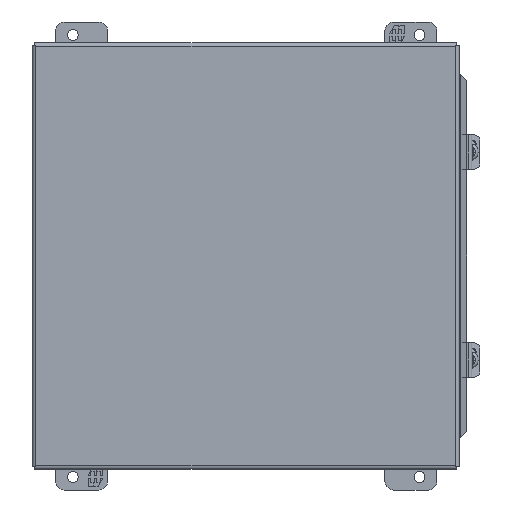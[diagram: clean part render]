
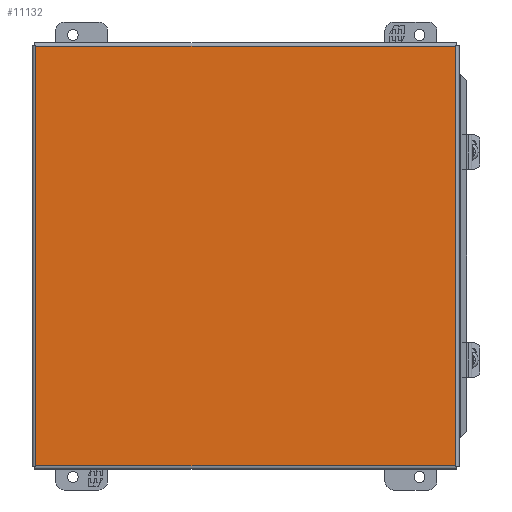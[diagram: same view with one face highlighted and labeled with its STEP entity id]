
A CAD part, front view. The second image highlights one B-rep face of the part: STEP entity #11132.
In plain terms, the highlighted planar face has unit normal (0, -1, 0).
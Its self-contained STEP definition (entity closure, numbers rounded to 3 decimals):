
#2894=ORIENTED_EDGE('',*,*,#5151,.T.);
#2895=ORIENTED_EDGE('',*,*,#5152,.T.);
#2896=ORIENTED_EDGE('',*,*,#5153,.T.);
#2897=ORIENTED_EDGE('',*,*,#5154,.T.);
#5151=EDGE_CURVE('',#6386,#6373,#7419,.T.);
#5152=EDGE_CURVE('',#6373,#6362,#7420,.T.);
#5153=EDGE_CURVE('',#6362,#6395,#7421,.T.);
#5154=EDGE_CURVE('',#6395,#6386,#7422,.T.);
#6362=VERTEX_POINT('',#19403);
#6373=VERTEX_POINT('',#19430);
#6386=VERTEX_POINT('',#19461);
#6395=VERTEX_POINT('',#19485);
#7419=LINE('',#19518,#8471);
#7420=LINE('',#19519,#8472);
#7421=LINE('',#19520,#8473);
#7422=LINE('',#19521,#8474);
#8471=VECTOR('',#14204,1000.);
#8472=VECTOR('',#14205,1000.);
#8473=VECTOR('',#14206,1000.);
#8474=VECTOR('',#14207,1000.);
#9379=EDGE_LOOP('',(#2894,#2895,#2896,#2897));
#10090=FACE_BOUND('',#9379,.T.);
#10581=PLANE('',#12021);
#11132=ADVANCED_FACE('',(#10090),#10581,.T.);
#12021=AXIS2_PLACEMENT_3D('',#19517,#14202,#14203);
#14202=DIRECTION('',(0.,-1.,0.));
#14203=DIRECTION('',(0.,0.,-1.));
#14204=DIRECTION('',(0.,0.,-1.));
#14205=DIRECTION('',(1.,0.,0.));
#14206=DIRECTION('',(0.,0.,1.));
#14207=DIRECTION('',(-1.,0.,0.));
#19403=CARTESIAN_POINT('',(153.797,0.,-153.797));
#19430=CARTESIAN_POINT('',(-153.797,0.,-153.797));
#19461=CARTESIAN_POINT('',(-153.797,0.,153.797));
#19485=CARTESIAN_POINT('',(153.797,0.,153.797));
#19517=CARTESIAN_POINT('',(-153.797,0.,-153.797));
#19518=CARTESIAN_POINT('',(-153.797,0.,153.797));
#19519=CARTESIAN_POINT('',(-153.797,0.,-153.797));
#19520=CARTESIAN_POINT('',(153.797,0.,-153.797));
#19521=CARTESIAN_POINT('',(153.797,0.,153.797));
